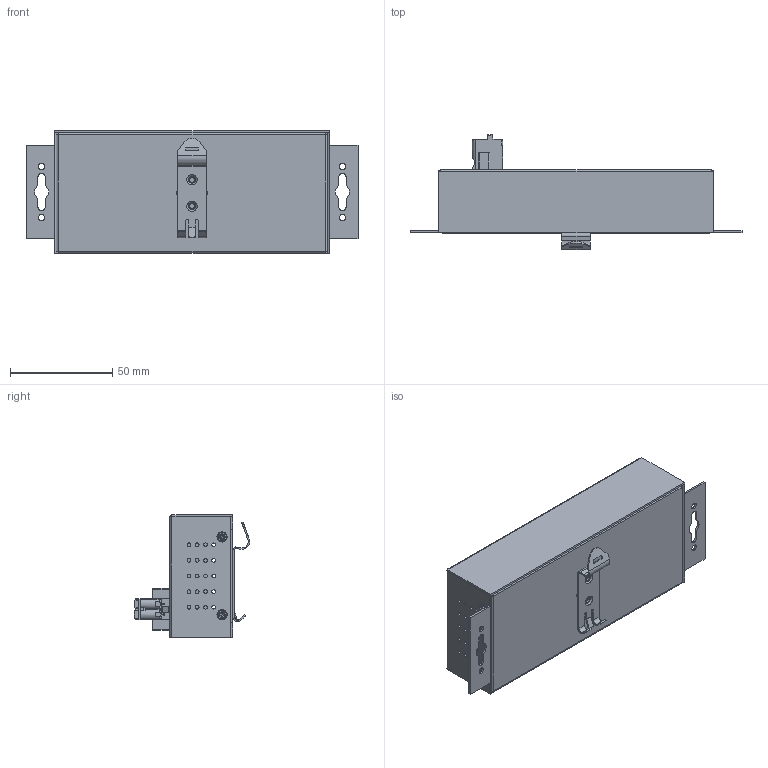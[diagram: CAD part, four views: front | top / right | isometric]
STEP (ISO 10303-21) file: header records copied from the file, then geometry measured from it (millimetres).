
FILE_DESCRIPTION(/* description */ (''),/* implementation_level */ '2;1');
FILE_NAME(/* name */ 'C:/Users/Leo/Desktop/CoolGear/CG-7PU3MGD/CG-7PU3MGD v7.step',/* time_stamp */ '2021-04-15T16:46:52-04:00',/* author */ (''),/* organization */ (''),/* preprocessor_version */ 'ST-DEVELOPER v18.1',/* originating_system */ 'Autodesk Translation Framework v10.6.0.1341',/* authorisation */ '');
FILE_SCHEMA (('AUTOMOTIVE_DESIGN { 1 0 10303 214 3 1 1 }'));
Products named in the file (5): CG-7PU3MGD; Conector male 5.08 phoenix v1; DINRCLP3X; M3X0.5 China 120ang METRIC 18-8 SS FLAT HEAD PHIL MACHINE SCREW v1; Component13
Assembly tree (5 placements, depth 2):
  CG-7PU3MGD
    Conector male 5.08 phoenix v1
    DINRCLP3X
    M3X0.5 China 120ang METRIC 18-8 SS FLAT HEAD PHIL MACHINE SCREW v1  x2
    Component13
Bounding box: 162.2 x 56.41 x 59.8 mm (x, y, z)
Volume: 117801.9 mm3; surface area: 86036.6 mm2
Topology: 3 solids, 5 shells, 1835 faces, 4835 edges, 3117 vertices
Faces by surface type: plane 1031, cylinder 575, bspline 94, cone 82, torus 48, sphere 5
Full cylindrical faces by diameter (mm): 0.5 x5, 1.3 x8, 1.6 x2, 1.8 x40, 1.85 x2, 2 x1, 2.02 x32, 2.45 x2, 2.5 x16, 2.529 x4, 2.55 x12, 2.7 x2, 2.845 x24, 3 x11, 3.1 x4, 3.556 x4, 4 x2, 4.05 x4, 4.191 x4, 6.3 x1, 8.6 x1
Entity records: 72295 total; most frequent: CARTESIAN_POINT 27247, ORIENTED_EDGE 9644, DIRECTION 8736, EDGE_CURVE 4822, VERTEX_POINT 3117, LINE 3078, VECTOR 3078, AXIS2_PLACEMENT_3D 2829
